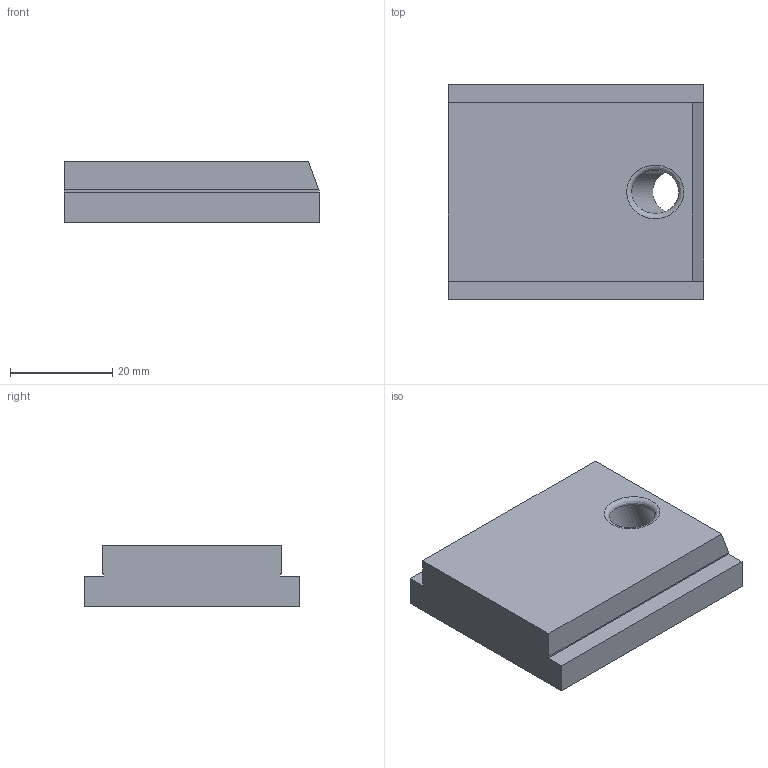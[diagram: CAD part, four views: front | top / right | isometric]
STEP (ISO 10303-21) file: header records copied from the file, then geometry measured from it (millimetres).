
FILE_DESCRIPTION (( 'STEP AP214' ), '1' );
FILE_NAME ('Schieber_-_H12 B35 L50.step', '2024-01-15T11:26:48', ( '' ), ( '' ), 'SwSTEP 2.0', 'SolidWorks 2020', '' );
FILE_SCHEMA (( 'AUTOMOTIVE_DESIGN' ));
Length unit declared in the file: millimetre
Products named in the file (1): Schieber_-_H12 B35 L50
Bounding box: 50 x 42 x 12 mm (x, y, z)
Volume: 22125.3 mm3; surface area: 6514.7 mm2
Topology: 1 solids, 1 shells, 206 faces, 555 edges, 369 vertices
Faces by surface type: plane 112, bspline 93, cylinder 1
Full cylindrical faces by diameter (mm): 8.5 x1
Entity records: 11241 total; most frequent: CARTESIAN_POINT 6684, ORIENTED_EDGE 1106, DIRECTION 594, EDGE_CURVE 553, VERTEX_POINT 369, VECTOR 366, LINE 366, EDGE_LOOP 228
